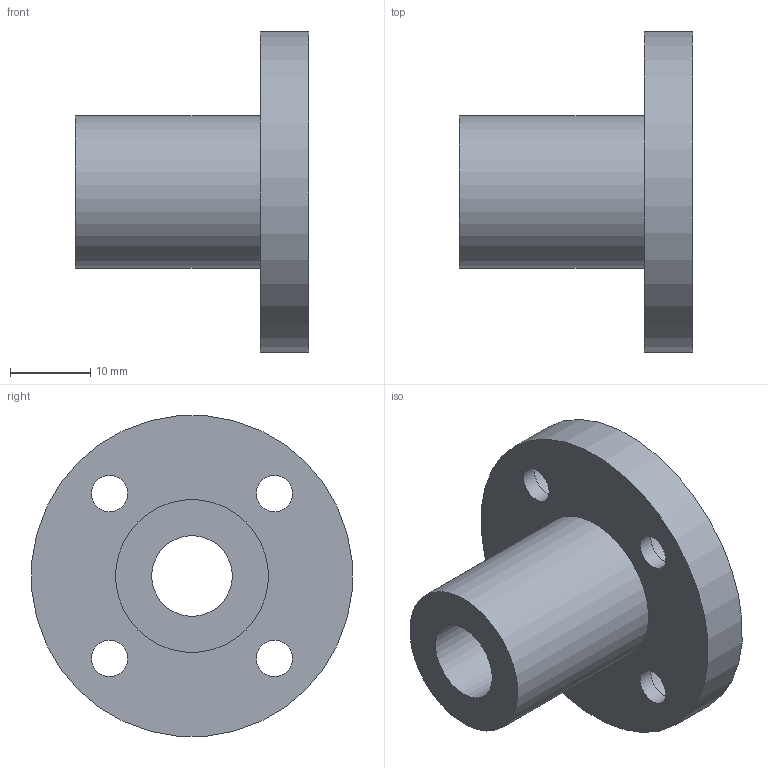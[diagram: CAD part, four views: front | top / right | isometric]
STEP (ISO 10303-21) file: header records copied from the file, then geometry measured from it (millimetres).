
FILE_DESCRIPTION(/* description */ (''),/* implementation_level */ '2;1');
FILE_NAME(/* name */ 'LMF10UU',/* time_stamp */ '2019-07-03T09:07:52+02:00',/* author */ ('VĂ©gh MĂˇtĂ©'),/* organization */ ('Bearing Kft'),/* preprocessor_version */ 'ST-DEVELOPER v16.7',/* originating_system */ 'DEX',/* authorisation */ $);
FILE_SCHEMA (('AUTOMOTIVE_DESIGN {1 0 10303 214 3 1 1}'));
Length unit declared in the file: millimetre
Products named in the file (1): LMF10UU
Bounding box: 29 x 39.85 x 39.85 mm (x, y, z)
Volume: 10936.9 mm3; surface area: 5773.2 mm2
Topology: 1 solids, 1 shells, 318 faces, 795 edges, 530 vertices
Faces by surface type: plane 244, bspline 60, cylinder 14
Full cylindrical faces by diameter (mm): 4.5 x4, 7.5 x4, 10 x1, 19 x1, 40 x1
Entity records: 11927 total; most frequent: CARTESIAN_POINT 4690, ORIENTED_EDGE 1562, DIRECTION 1207, EDGE_CURVE 781, LINE 633, VECTOR 633, VERTEX_POINT 530, EDGE_LOOP 393
